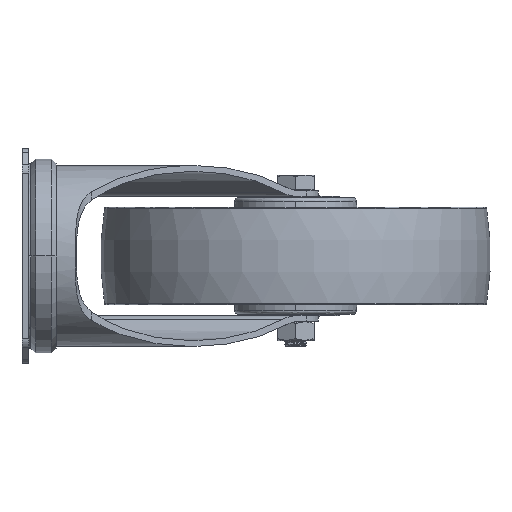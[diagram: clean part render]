
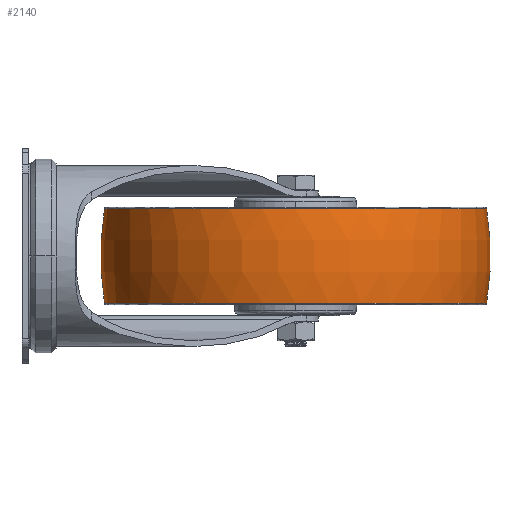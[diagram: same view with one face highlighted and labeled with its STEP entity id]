
A CAD part, left-side view. The second image highlights one B-rep face of the part: STEP entity #2140.
In plain terms, the highlighted toroidal (fillet/blend) face has major radius 50 mm and minor radius 150 mm.
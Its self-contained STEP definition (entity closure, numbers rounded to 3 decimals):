
#674 = TOROIDAL_SURFACE ( 'NONE', #30420, -50., 150. ) ;
#1213 = EDGE_CURVE ( 'NONE', #15288, #24886, #13135, .T. ) ;
#1372 = DIRECTION ( 'NONE',  ( 0., 0., -1. ) ) ;
#1795 = AXIS2_PLACEMENT_3D ( 'NONE', #8496, #34127, #33700 ) ;
#2140 = ADVANCED_FACE ( 'NONE', ( #29343 ), #674, .T. ) ;
#3215 = EDGE_CURVE ( 'NONE', #34448, #15288, #29230, .T. ) ;
#3271 = EDGE_LOOP ( 'NONE', ( #30521, #23813, #27671, #13707 ) ) ;
#3616 = VERTEX_POINT ( 'NONE', #31726 ) ;
#3662 = CARTESIAN_POINT ( 'NONE',  ( 0., -50., 0. ) ) ;
#4578 = DIRECTION ( 'NONE',  ( -1., 0., 0. ) ) ;
#5307 = AXIS2_PLACEMENT_3D ( 'NONE', #3662, #25857, #9925 ) ;
#7684 = CARTESIAN_POINT ( 'NONE',  ( 0., 50., 0. ) ) ;
#8496 = CARTESIAN_POINT ( 'NONE',  ( 0., 0., -24.161 ) ) ;
#9925 = DIRECTION ( 'NONE',  ( 0., 0., 1. ) ) ;
#10869 = DIRECTION ( 'NONE',  ( 1., 0., 0. ) ) ;
#12762 = AXIS2_PLACEMENT_3D ( 'NONE', #32863, #1372, #4578 ) ;
#13135 = CIRCLE ( 'NONE', #5307, 150. ) ;
#13707 = ORIENTED_EDGE ( 'NONE', *, *, #37474, .T. ) ;
#14121 = CIRCLE ( 'NONE', #30229, 150. ) ;
#15288 = VERTEX_POINT ( 'NONE', #38679 ) ;
#23046 = CARTESIAN_POINT ( 'NONE',  ( 0., 98.041, -24.161 ) ) ;
#23813 = ORIENTED_EDGE ( 'NONE', *, *, #3215, .T. ) ;
#24886 = VERTEX_POINT ( 'NONE', #23046 ) ;
#24997 = DIRECTION ( 'NONE',  ( 0., 0., -1. ) ) ;
#25857 = DIRECTION ( 'NONE',  ( -1., 0., 0. ) ) ;
#27671 = ORIENTED_EDGE ( 'NONE', *, *, #1213, .T. ) ;
#29230 = CIRCLE ( 'NONE', #12762, 98.041 ) ;
#29343 = FACE_OUTER_BOUND ( 'NONE', #3271, .T. ) ;
#30229 = AXIS2_PLACEMENT_3D ( 'NONE', #7684, #10869, #39849 ) ;
#30420 = AXIS2_PLACEMENT_3D ( 'NONE', #38042, #24997, #40962 ) ;
#30521 = ORIENTED_EDGE ( 'NONE', *, *, #33369, .F. ) ;
#31726 = CARTESIAN_POINT ( 'NONE',  ( 0., -98.041, -24.161 ) ) ;
#32290 = CARTESIAN_POINT ( 'NONE',  ( 0., -98.041, 24.161 ) ) ;
#32863 = CARTESIAN_POINT ( 'NONE',  ( 0., 0., 24.161 ) ) ;
#33369 = EDGE_CURVE ( 'NONE', #34448, #3616, #14121, .T. ) ;
#33700 = DIRECTION ( 'NONE',  ( -1., 0., 0. ) ) ;
#34127 = DIRECTION ( 'NONE',  ( 0., 0., 1. ) ) ;
#34448 = VERTEX_POINT ( 'NONE', #32290 ) ;
#36037 = CIRCLE ( 'NONE', #1795, 98.041 ) ;
#37474 = EDGE_CURVE ( 'NONE', #24886, #3616, #36037, .T. ) ;
#38042 = CARTESIAN_POINT ( 'NONE',  ( 0., 0., 0. ) ) ;
#38679 = CARTESIAN_POINT ( 'NONE',  ( 0., 98.041, 24.161 ) ) ;
#39849 = DIRECTION ( 'NONE',  ( 0., 1., 0. ) ) ;
#40962 = DIRECTION ( 'NONE',  ( 0., 1., 0. ) ) ;
